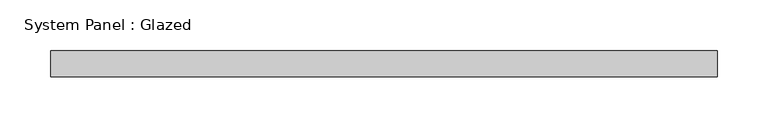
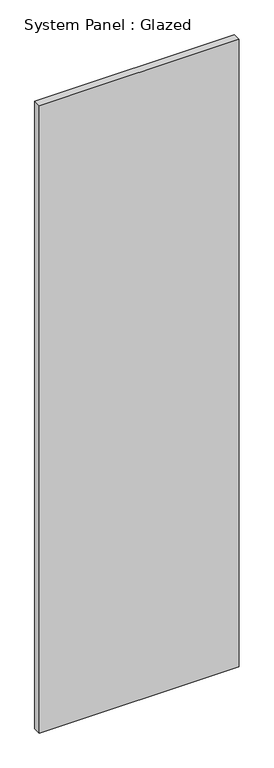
"""IFC4 building model written with IfcOpenShell, lengths in millimetres: plate geometry, System Panel : Glazed."""

from ifc_helpers import new_model, si_unit, origin, origin_with_axes, place, context, project, spatial, polyline, outline, extrude, source, transform, mapped, element, save


def system_panel_glazed_10de8b75(model_context):
    return source(origin(), model_context, "Body", "SweptSolid", [
        extrude(outline(polyline([(327.3750001, -44.45), (-327.3750001, -44.45), (-327.3750001, -19.05), (327.3750001, -19.05), (327.3750001, -44.45)])), origin_with_axes(), (0.0, 0.0, 1.0), 2173.0),
    ])


if __name__ == "__main__":
    model = new_model("IFC4")
    model_context = context("Model", 3, world=origin())
    ifc_project = project(units=[si_unit("LENGTHUNIT", "METRE", prefix="MILLI")], contexts=[model_context])
    site = spatial("IfcSite", under=ifc_project)
    building = spatial("IfcBuilding", under=site)
    placement = place(None, origin())
    system_panel_glazed_shape = system_panel_glazed_10de8b75(model_context)
    element("IfcPlate", 1, ObjectType="System Panel : Glazed", at=placement, inside=building, context=model_context, shape_type="MappedRepresentation", body=[
        mapped(system_panel_glazed_shape, transform((0.0, 0.0, 0.0), x_axis=(1.0, 0.0, 0.0), y_axis=(0.0, 1.0, 0.0), z_axis=(0.0, 0.0, 1.0))),
    ])
    save(model, "model.ifc")
